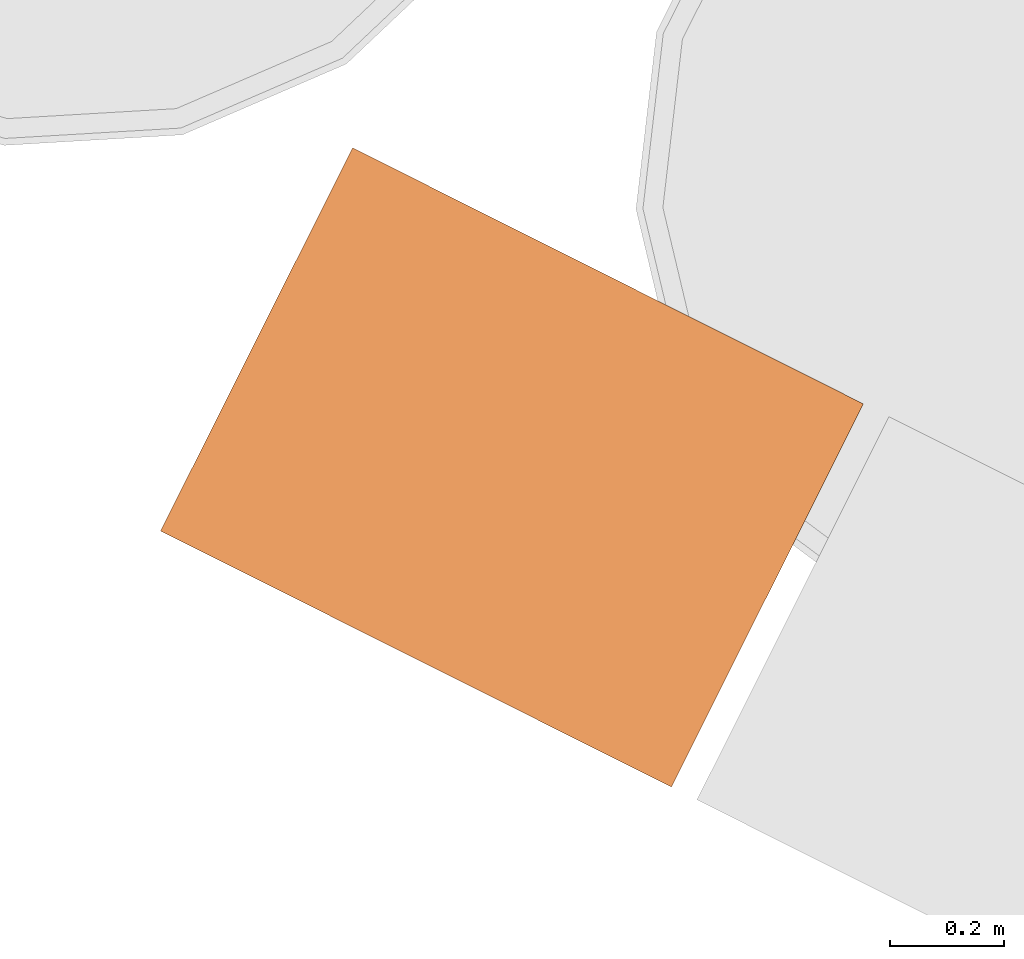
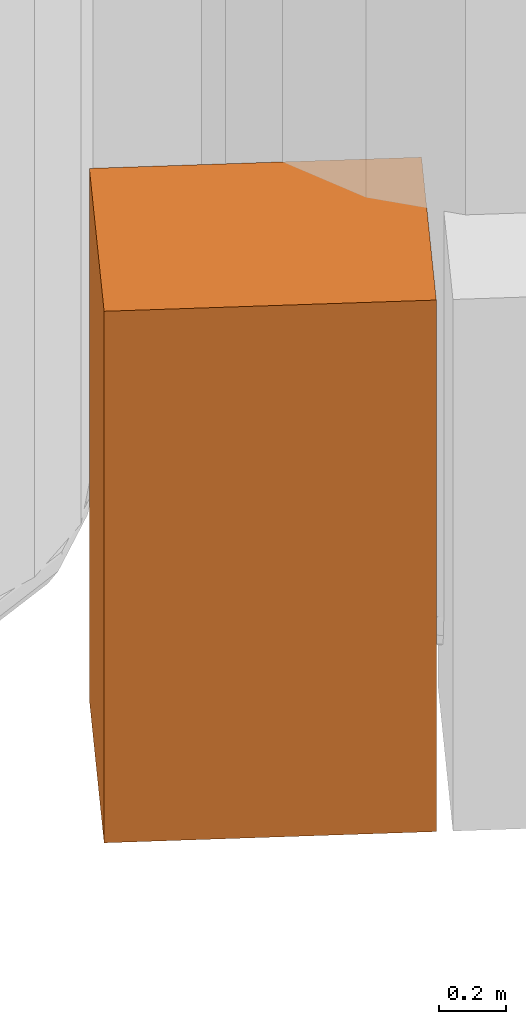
# One storey, part 174 of 206: 1 proxy.
"""IFC2X3 building model written with IfcOpenShell, lengths in metres."""

from ifc_helpers import new_model, si_unit, derived_unit, direction, frame, origin, place, context, subcontext, project, spatial, faceted_brep, source, transform, mapped, material, type_object, type_shapes, element, save


model = new_model("IFC2X3")

# Units and contexts
model_context = context("Model", 3, precision=5.2338327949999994e-05, world=origin(), true_north=direction((0.0, 1.0)))
body_context = subcontext(model_context, "Body", "Model", "MODEL_VIEW")
ifc_project = project(units=[si_unit("LENGTHUNIT", "METRE"), si_unit("AREAUNIT", "SQUARE_METRE"), si_unit("VOLUMEUNIT", "CUBIC_METRE"), si_unit("MASSUNIT", "GRAM", prefix="KILO"), si_unit("PLANEANGLEUNIT", "RADIAN"), derived_unit("THERMALTRANSMITTANCEUNIT", [(si_unit("MASSUNIT", "GRAM", prefix="KILO"), 1), (si_unit("THERMODYNAMICTEMPERATUREUNIT", "KELVIN"), -1), (si_unit("TIMEUNIT", "SECOND"), -3)])], contexts=[model_context])

# Site, building, storey
site_placement = place(None, frame((0.0, 0.0, 0.0), z_axis=(0.0, 0.0, 1.0), x_axis=(0.8939966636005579, -0.4480736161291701, 0.0)))
site = spatial("IfcSite", under=ifc_project, at=site_placement, Name="Default", CompositionType="ELEMENT")
building_placement = place(site_placement, origin())
building = spatial("IfcBuilding", under=site, at=building_placement, CompositionType="ELEMENT")
storey_placement = place(building_placement, origin())
storey = spatial("IfcBuildingStorey", under=building, at=storey_placement, Name="Erdgeschoss", CompositionType="ELEMENT", Elevation=0.0)

# Proxy
ifc_material = material(Name="IfcSurfaceStyle #228457")
building_element_proxy_type = type_object("IfcBuildingElementProxyType", Name="Quader 327038:Quader 327038", PredefinedType="NOTDEFINED", material=ifc_material)
shared_shape = source(origin(), body_context, "Body", "Brep", [
    faceted_brep([(29.70942678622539, 0.3587225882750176, 0.0), (30.709426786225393, 0.3587225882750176, 0.0), (30.709426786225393, 0.35872258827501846, 1.949999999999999), (29.70942678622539, 0.3587225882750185, 1.95), (30.709426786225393, 1.1087225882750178, 1.9499999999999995), (29.70942678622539, 1.1087225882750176, 1.9500000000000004), (30.709426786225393, 1.1087225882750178, 0.0), (29.70942678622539, 1.1087225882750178, 0.0)], [[[0, 1, 2, 3]], [[3, 2, 4, 5]], [[5, 4, 6, 7]], [[7, 6, 1, 0]], [[0, 3, 5, 7]], [[6, 4, 2, 1]]]),
])
type_shapes(building_element_proxy_type, [shared_shape])
proxy_placement = place(storey_placement, origin())
element("IfcBuildingElementProxy", 1, at=proxy_placement, inside=storey, type_object=building_element_proxy_type, material=ifc_material, Name="Quader", ObjectType="Quader", context=body_context, shape_type="MappedRepresentation", body=[
    mapped(shared_shape, transform((0.0, 0.0, 0.0), scale=1.0)),
])

save(model, "model.ifc")
